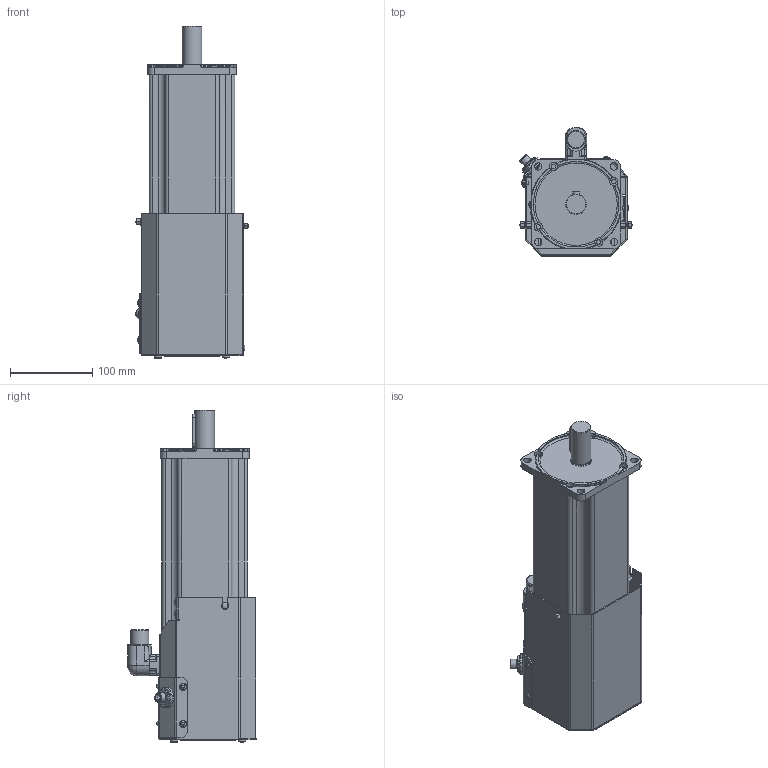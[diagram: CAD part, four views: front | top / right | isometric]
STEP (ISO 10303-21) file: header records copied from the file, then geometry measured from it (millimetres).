
FILE_DESCRIPTION(/* description */ ('M23, gewinkelt, 25x25 für M3, 9-polig'),/* implementation_level */ '2;1');
FILE_NAME(/* name */ 'C:\Autodesk Vault\AUTODESK_VAULT\CAD\000-FERTIG Motors\BM100\_Gesamtbaugruppen\vereinfachte_Modelle\Lüfter\AM8553-xx1B-9000.stp',/* time_stamp */ '2016-11-07T15:17:25+01:00',/* author */ ('JohannesD'),/* organization */ ('FERTIG Motors '),/* preprocessor_version */ 'ST-DEVELOPER v16.1',/* originating_system */ 'Autodesk Inventor 2016',/* authorisation */ '');
FILE_SCHEMA (('CONFIG_CONTROL_DESIGN'));
Products named in the file (5): Intercontec-BEDC091NN00001116000_VM; BM100-1-VM-00; BM100Lüfter-VM; DIN 6885 - A 8 x 7 x 40; BM100-S-B0-R_Lüfter_Danaher komaptibel_VM
Assembly tree (4 placements, depth 2):
  BM100-S-B0-R_Lüfter_Danaher komaptibel_VM
    Intercontec-BEDC091NN00001116000_VM
    BM100-1-VM-00
    BM100Lüfter-VM
    DIN 6885 - A 8 x 7 x 40
Bounding box: 136.73 x 155.99 x 403.5 mm (x, y, z)
Volume: 2980628.1 mm3; surface area: 360376.9 mm2
Topology: 6 solids, 17 shells, 1778 faces, 4711 edges, 3015 vertices
Faces by surface type: plane 798, cylinder 466, bspline 281, torus 161, cone 70, sphere 2
Full cylindrical faces by diameter (mm): 0.8 x1, 1 x4, 1.8 x4, 2.15 x1, 2.921 x1, 3.242 x6, 3.632 x1, 4 x24, 4.3 x4, 4.5 x8, 4.6 x3, 4.8 x13, 5.5 x4, 7 x4, 8.3 x1, 8.85 x9, 9 x12, 10 x4, 10.7 x1, 12 x1, 12.002 x1, 14 x1, 17 x1, 19.1 x1, 20.1 x2, 22 x1, 23 x1, 23.4 x1, 24 x1, 25 x1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
Entity records: 62287 total; most frequent: CARTESIAN_POINT 19140, ORIENTED_EDGE 8834, DIRECTION 7880, EDGE_CURVE 4417, VERTEX_POINT 2936, AXIS2_PLACEMENT_3D 2910, EDGE_LOOP 2159, LINE 2060
